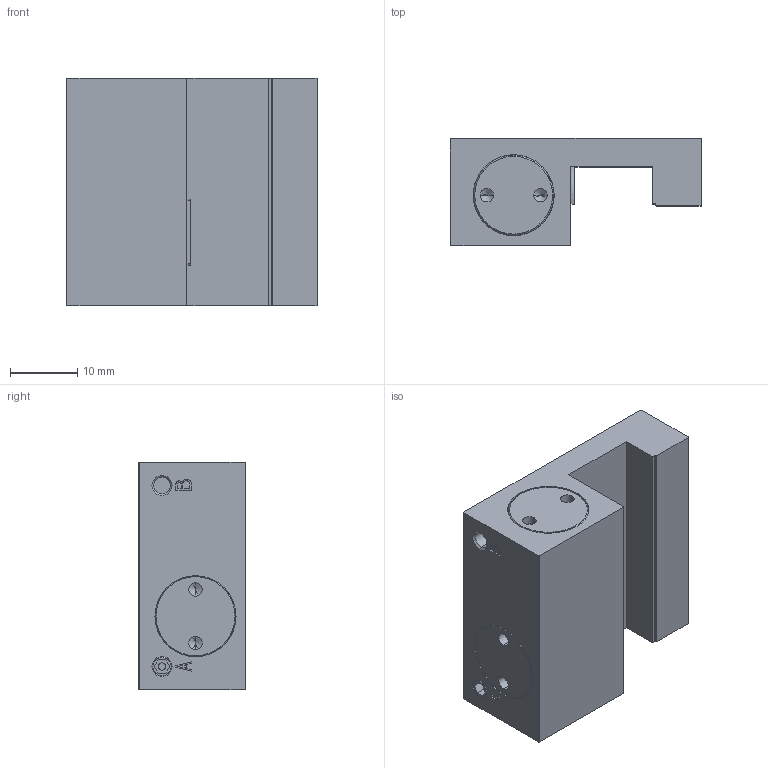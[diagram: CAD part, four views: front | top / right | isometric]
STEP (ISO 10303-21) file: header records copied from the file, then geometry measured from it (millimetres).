
FILE_DESCRIPTION( ( '' ), '1' );
FILE_NAME( 'E:/04 嬴檜蠱滌/0404 ZIMMER/040414 ZIMMER CAD download/MCP/MCP1214L---.stp', '2020-04-16T10:02:20', ( '' ), ( '' ), ' ', ' ', ' ' );
FILE_SCHEMA( ( 'automotive_design' ) );
Length unit declared in the file: millimetre
Products named in the file (1): 1
Bounding box: 37.5 x 16.05 x 34 mm (x, y, z)
Volume: 14009.5 mm3; surface area: 5278.8 mm2
Topology: 1 solids, 1 shells, 118 faces, 280 edges, 176 vertices
Faces by surface type: plane 64, cylinder 32, cone 22
Entity records: 6536 total; most frequent: DIRECTION 590, STYLED_ITEM 567, PRESENTATION_STYLE_ASSIGNMENT 567, CARTESIAN_POINT 567, COLOUR_RGB 567, ORIENTED_EDGE 544, EDGE_CURVE 272, CURVE_STYLE 272
